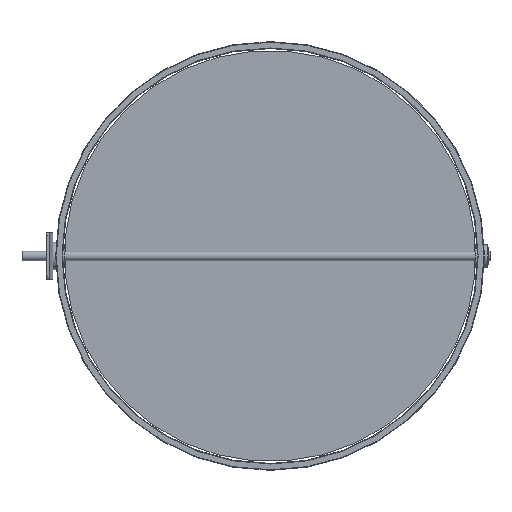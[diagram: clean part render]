
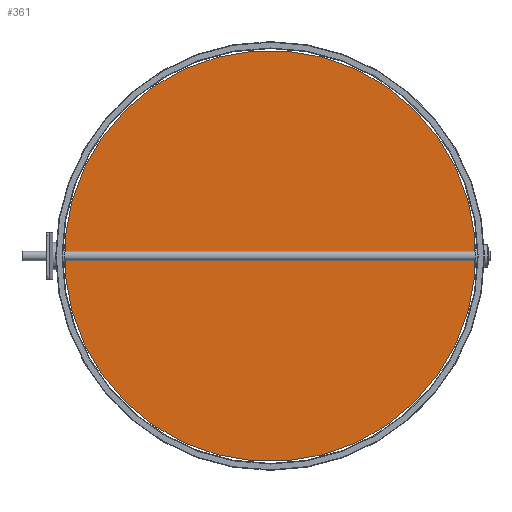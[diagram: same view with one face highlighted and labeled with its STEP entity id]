
A CAD part, left-side view. The second image highlights one B-rep face of the part: STEP entity #361.
In plain terms, the highlighted planar face has unit normal (-1, 0, 0).
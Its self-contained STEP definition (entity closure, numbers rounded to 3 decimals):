
#179=LINE('',#2045,#227);
#184=LINE('',#2059,#232);
#227=VECTOR('',#1633,1.);
#232=VECTOR('',#1646,1.);
#361=ADVANCED_FACE('',(#497,#498,#499,#500,#501,#502,#503,#504),#397,.T.);
#397=PLANE('',#1347);
#497=FACE_BOUND('',#641,.T.);
#498=FACE_BOUND('',#642,.T.);
#499=FACE_BOUND('',#643,.T.);
#500=FACE_BOUND('',#644,.T.);
#501=FACE_BOUND('',#645,.T.);
#502=FACE_BOUND('',#646,.T.);
#503=FACE_BOUND('',#647,.T.);
#504=FACE_BOUND('',#648,.T.);
#641=EDGE_LOOP('',(#883,#884,#885,#886));
#642=EDGE_LOOP('',(#887));
#643=EDGE_LOOP('',(#888));
#644=EDGE_LOOP('',(#889));
#645=EDGE_LOOP('',(#890));
#646=EDGE_LOOP('',(#891));
#647=EDGE_LOOP('',(#892));
#648=EDGE_LOOP('',(#893));
#883=ORIENTED_EDGE('',*,*,#1122,.T.);
#884=ORIENTED_EDGE('',*,*,#1101,.T.);
#885=ORIENTED_EDGE('',*,*,#1105,.T.);
#886=ORIENTED_EDGE('',*,*,#1108,.T.);
#887=ORIENTED_EDGE('',*,*,#1119,.T.);
#888=ORIENTED_EDGE('',*,*,#1117,.F.);
#889=ORIENTED_EDGE('',*,*,#1115,.F.);
#890=ORIENTED_EDGE('',*,*,#1113,.F.);
#891=ORIENTED_EDGE('',*,*,#1111,.F.);
#892=ORIENTED_EDGE('',*,*,#1109,.F.);
#893=ORIENTED_EDGE('',*,*,#1123,.F.);
#981=VERTEX_POINT('',#2044);
#982=VERTEX_POINT('',#2046);
#984=VERTEX_POINT('',#2052);
#986=VERTEX_POINT('',#2058);
#987=VERTEX_POINT('',#2062);
#989=VERTEX_POINT('',#2067);
#991=VERTEX_POINT('',#2072);
#993=VERTEX_POINT('',#2077);
#995=VERTEX_POINT('',#2082);
#997=VERTEX_POINT('',#2087);
#999=VERTEX_POINT('',#2095);
#1101=EDGE_CURVE('',#982,#981,#179,.T.);
#1105=EDGE_CURVE('',#981,#984,#1180,.T.);
#1108=EDGE_CURVE('',#984,#986,#184,.T.);
#1109=EDGE_CURVE('',#987,#987,#1181,.T.);
#1111=EDGE_CURVE('',#989,#989,#1183,.T.);
#1113=EDGE_CURVE('',#991,#991,#1185,.T.);
#1115=EDGE_CURVE('',#993,#993,#1187,.T.);
#1117=EDGE_CURVE('',#995,#995,#1189,.T.);
#1119=EDGE_CURVE('',#997,#997,#1191,.T.);
#1122=EDGE_CURVE('',#986,#982,#1194,.T.);
#1123=EDGE_CURVE('',#999,#999,#1195,.T.);
#1180=CIRCLE('',#1320,446.);
#1181=CIRCLE('',#1323,4.05);
#1183=CIRCLE('',#1326,4.05);
#1185=CIRCLE('',#1329,4.05);
#1187=CIRCLE('',#1332,4.05);
#1189=CIRCLE('',#1335,4.05);
#1191=CIRCLE('',#1338,4.05);
#1194=CIRCLE('',#1342,446.);
#1195=CIRCLE('',#1344,4.05);
#1320=AXIS2_PLACEMENT_3D('',#2053,#1640,#1641);
#1323=AXIS2_PLACEMENT_3D('',#2061,#1649,#1650);
#1326=AXIS2_PLACEMENT_3D('',#2066,#1655,#1656);
#1329=AXIS2_PLACEMENT_3D('',#2071,#1661,#1662);
#1332=AXIS2_PLACEMENT_3D('',#2076,#1667,#1668);
#1335=AXIS2_PLACEMENT_3D('',#2081,#1673,#1674);
#1338=AXIS2_PLACEMENT_3D('',#2086,#1679,#1680);
#1342=AXIS2_PLACEMENT_3D('',#2092,#1687,#1688);
#1344=AXIS2_PLACEMENT_3D('',#2094,#1691,#1692);
#1347=AXIS2_PLACEMENT_3D('',#2099,#1697,#1698);
#1633=DIRECTION('',(0.,0.,1.));
#1640=DIRECTION('',(-1.,0.,0.));
#1641=DIRECTION('',(0.,0.,1.));
#1646=DIRECTION('',(0.,0.,-1.));
#1649=DIRECTION('',(-1.,0.,0.));
#1650=DIRECTION('',(0.,0.,1.));
#1655=DIRECTION('',(-1.,0.,0.));
#1656=DIRECTION('',(0.,0.,1.));
#1661=DIRECTION('',(-1.,0.,0.));
#1662=DIRECTION('',(0.,0.,1.));
#1667=DIRECTION('',(-1.,0.,0.));
#1668=DIRECTION('',(0.,0.,1.));
#1673=DIRECTION('',(-1.,0.,0.));
#1674=DIRECTION('',(0.,0.,1.));
#1679=DIRECTION('',(1.,0.,0.));
#1680=DIRECTION('',(0.,0.,1.));
#1687=DIRECTION('',(-1.,0.,0.));
#1688=DIRECTION('',(0.,0.,1.));
#1691=DIRECTION('',(-1.,0.,0.));
#1692=DIRECTION('',(0.,0.,1.));
#1697=DIRECTION('',(-1.,0.,0.));
#1698=DIRECTION('',(0.,0.,1.));
#2044=CARTESIAN_POINT('',(-0.5,-553.,167.19));
#2045=CARTESIAN_POINT('',(-0.5,-553.,82.81));
#2046=CARTESIAN_POINT('',(-0.5,-553.,82.81));
#2052=CARTESIAN_POINT('',(-0.5,335.,167.19));
#2053=CARTESIAN_POINT('',(-0.5,-109.,125.));
#2058=CARTESIAN_POINT('',(-0.5,335.,82.81));
#2059=CARTESIAN_POINT('',(-0.5,335.,167.19));
#2061=CARTESIAN_POINT('',(-0.5,311.,125.));
#2062=CARTESIAN_POINT('',(-0.5,311.,129.05));
#2066=CARTESIAN_POINT('',(-0.5,-529.,125.));
#2067=CARTESIAN_POINT('',(-0.5,-529.,129.05));
#2071=CARTESIAN_POINT('',(-0.5,91.,125.));
#2072=CARTESIAN_POINT('',(-0.5,91.,129.05));
#2076=CARTESIAN_POINT('',(-0.5,-309.,125.));
#2077=CARTESIAN_POINT('',(-0.5,-309.,129.05));
#2081=CARTESIAN_POINT('',(-0.5,-109.,125.));
#2082=CARTESIAN_POINT('',(-0.5,-109.,129.05));
#2086=CARTESIAN_POINT('',(-0.5,-499.,125.));
#2087=CARTESIAN_POINT('',(-0.5,-499.,129.05));
#2092=CARTESIAN_POINT('',(-0.5,-109.,125.));
#2094=CARTESIAN_POINT('',(-0.5,281.,125.));
#2095=CARTESIAN_POINT('',(-0.5,281.,129.05));
#2099=CARTESIAN_POINT('',(-0.5,-109.,125.));
